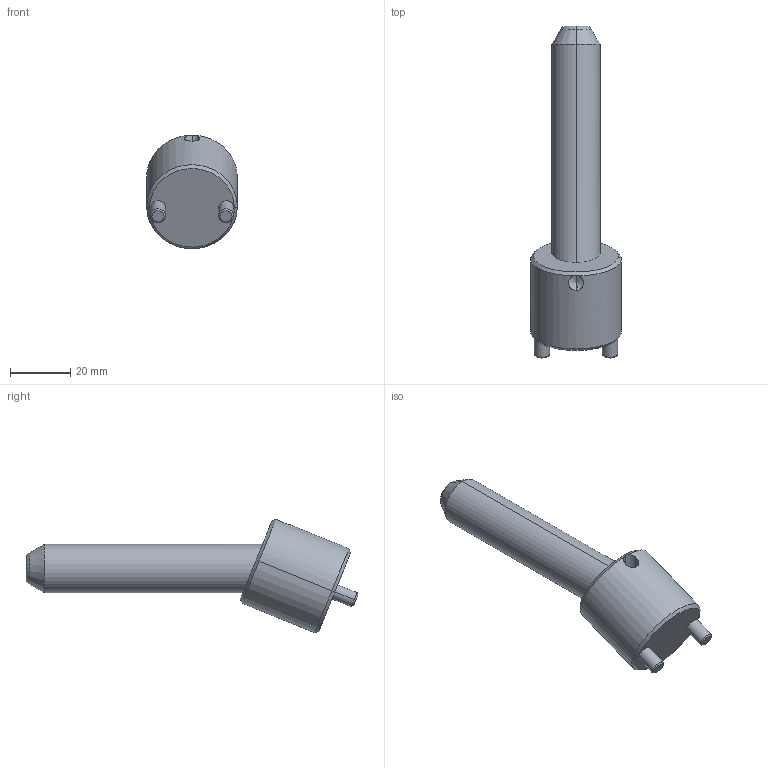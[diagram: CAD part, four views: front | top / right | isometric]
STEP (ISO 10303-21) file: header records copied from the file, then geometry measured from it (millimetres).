
FILE_DESCRIPTION(('CATIA V5 STEP Exchange'),'2;1');
FILE_NAME('C:\Users\Raffaele\Desktop\3D BOLEX\3D FILES CF BOLEX\19-INCLINED ASSEMBLY REF_CI\CI2216075.stp','2019-06-24T06:47:36+00:00',('none'),('none'),'CATIA Version 5 Release 20 GA (IN-10)','CATIA V5 STEP AP203','none');
FILE_SCHEMA(('CONFIG_CONTROL_DESIGN'));
Length unit declared in the file: millimetre
Products named in the file (1): CI2216075
Assembly tree (2 placements, depth 2):
  CI2216075
    #58
    #590
Bounding box: 30 x 109.79 x 37.53 mm (x, y, z)
Volume: 34341 mm3; surface area: 10686.8 mm2
Topology: 2 solids, 2 shells, 39 faces, 85 edges, 49 vertices
Faces by surface type: cone 14, cylinder 14, plane 7, torus 4
Entity records: 1507 total; most frequent: CARTESIAN_POINT 634, ORIENTED_EDGE 166, DIRECTION 146, EDGE_CURVE 83, AXIS2_PLACEMENT_3D 73, VERTEX_POINT 49, EDGE_LOOP 42, ADVANCED_FACE 39
